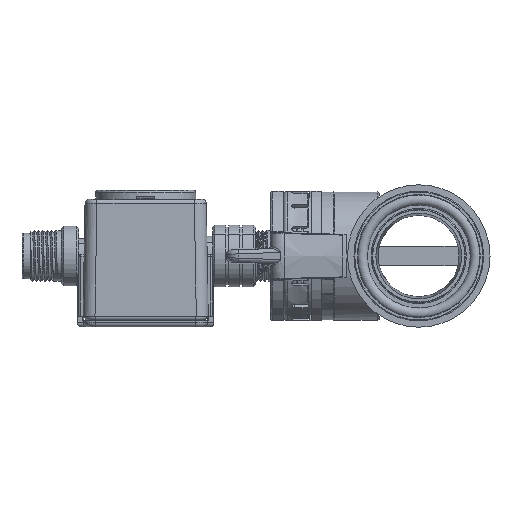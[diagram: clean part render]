
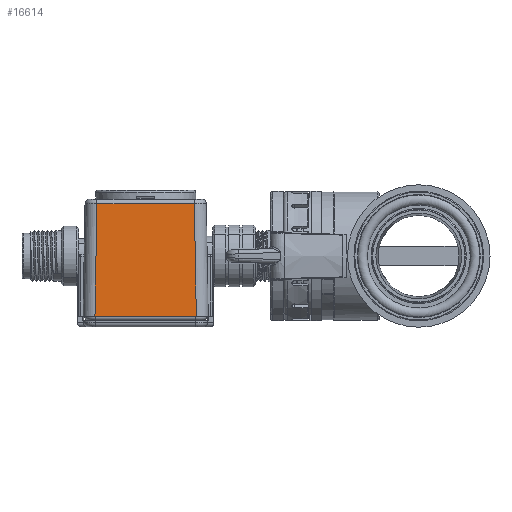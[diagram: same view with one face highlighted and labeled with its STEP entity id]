
A CAD part, left-side view. The second image highlights one B-rep face of the part: STEP entity #16614.
In plain terms, the highlighted planar face has unit normal (-1, 0, 0.018).
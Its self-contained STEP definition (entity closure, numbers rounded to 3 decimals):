
#1975=LINE('',#66340,#3829);
#1979=LINE('',#66358,#3833);
#1980=LINE('',#66360,#3834);
#1981=LINE('',#66362,#3835);
#3829=VECTOR('',#45068,1.);
#3833=VECTOR('',#45084,1.);
#3834=VECTOR('',#45085,1.);
#3835=VECTOR('',#45086,1.);
#16614=ADVANCED_FACE('',(#18708),#17429,.F.);
#17429=PLANE('',#38819);
#18708=FACE_OUTER_BOUND('',#20421,.T.);
#20421=EDGE_LOOP('',(#27128,#27129,#27130,#27131));
#27128=ORIENTED_EDGE('',*,*,#34811,.T.);
#27129=ORIENTED_EDGE('',*,*,#34819,.F.);
#27130=ORIENTED_EDGE('',*,*,#34820,.F.);
#27131=ORIENTED_EDGE('',*,*,#34821,.T.);
#31069=VERTEX_POINT('',#66341);
#31070=VERTEX_POINT('',#66342);
#31077=VERTEX_POINT('',#66359);
#31078=VERTEX_POINT('',#66361);
#34811=EDGE_CURVE('',#31069,#31070,#1975,.T.);
#34819=EDGE_CURVE('',#31077,#31070,#1979,.T.);
#34820=EDGE_CURVE('',#31078,#31077,#1980,.T.);
#34821=EDGE_CURVE('',#31078,#31069,#1981,.T.);
#38819=AXIS2_PLACEMENT_3D('',#66363,#45087,#45088);
#45068=DIRECTION('',(-0.017,0.017,-1.));
#45084=DIRECTION('',(0.,1.,0.));
#45085=DIRECTION('',(-0.017,-0.017,-1.));
#45086=DIRECTION('',(0.,1.,0.));
#45087=DIRECTION('',(1.,0.,-0.017));
#45088=DIRECTION('',(0.017,0.,1.));
#66340=CARTESIAN_POINT('',(-66.269,53.651,-19.543));
#66341=CARTESIAN_POINT('',(-65.714,53.096,12.249));
#66342=CARTESIAN_POINT('',(-66.173,53.555,-14.045));
#66358=CARTESIAN_POINT('',(-66.173,49.065,-14.045));
#66359=CARTESIAN_POINT('',(-66.173,29.905,-14.045));
#66360=CARTESIAN_POINT('',(-66.269,29.809,-19.543));
#66361=CARTESIAN_POINT('',(-65.714,30.364,12.249));
#66362=CARTESIAN_POINT('',(-65.714,49.065,12.249));
#66363=CARTESIAN_POINT('',(-66.271,49.065,-19.623));
